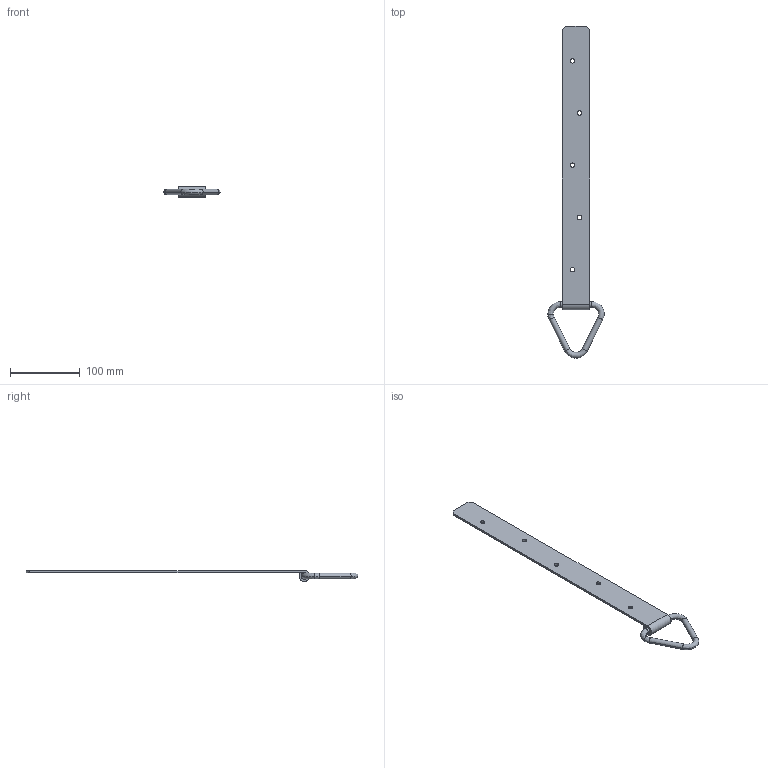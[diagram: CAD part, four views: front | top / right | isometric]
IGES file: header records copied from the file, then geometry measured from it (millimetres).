
Start section: SolidWorks IGES file using analytic representation for surfaces
Global section: file name: C:\Users\cbrechard\Desktop\29881.IGS; native system: SolidWorks 2017; preprocessor: SolidWorks 2017; author: cbrechard; date: 190904.155343; units: millimetre
Bounding box: 80.98 x 476.93 x 15.5 mm (x, y, z)
Surface area: 43378.2 mm2 (no closed solid volume)
Topology: 0 solids, 0 shells, 38 faces, 660 edges, 660 vertices
Faces by surface type: revolution 20, bspline 18
